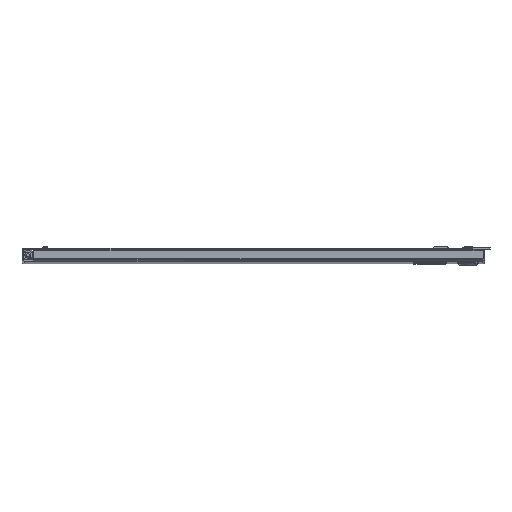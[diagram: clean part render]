
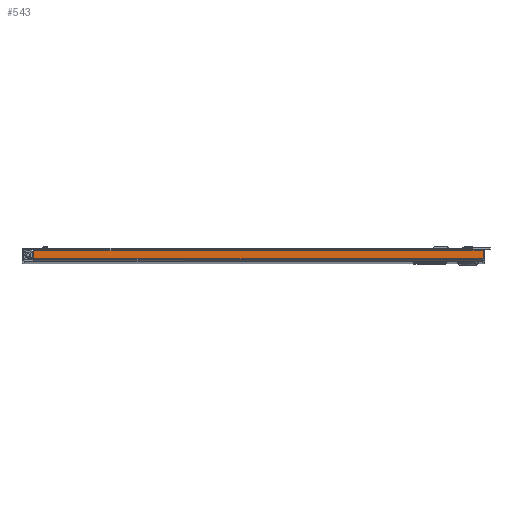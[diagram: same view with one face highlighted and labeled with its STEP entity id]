
A CAD part, top view. The second image highlights one B-rep face of the part: STEP entity #543.
In plain terms, the highlighted planar face has unit normal (0, 0, 1).
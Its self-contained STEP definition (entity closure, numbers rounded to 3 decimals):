
#543 = ADVANCED_FACE( '', ( #1204 ), #1205, .T. );
#1204 = FACE_OUTER_BOUND( '', #2064, .T. );
#1205 = PLANE( '', #2065 );
#2064 = EDGE_LOOP( '', ( #3395, #3396, #3397, #3398, #3399, #3400, #3401 ) );
#2065 = AXIS2_PLACEMENT_3D( '', #3402, #3403, #3404 );
#3395 = ORIENTED_EDGE( '', *, *, #5536, .T. );
#3396 = ORIENTED_EDGE( '', *, *, #5537, .T. );
#3397 = ORIENTED_EDGE( '', *, *, #5330, .F. );
#3398 = ORIENTED_EDGE( '', *, *, #5486, .F. );
#3399 = ORIENTED_EDGE( '', *, *, #5538, .F. );
#3400 = ORIENTED_EDGE( '', *, *, #5539, .T. );
#3401 = ORIENTED_EDGE( '', *, *, #5540, .T. );
#3402 = CARTESIAN_POINT( '', ( -233.604, 1.181, 885.825 ) );
#3403 = DIRECTION( '', ( 0., 0., 1. ) );
#3404 = DIRECTION( '', ( 0., -1., 0. ) );
#5330 = EDGE_CURVE( '', #6212, #6214, #6215, .T. );
#5486 = EDGE_CURVE( '', #6493, #6212, #6495, .T. );
#5536 = EDGE_CURVE( '', #6578, #6579, #6580, .T. );
#5537 = EDGE_CURVE( '', #6579, #6214, #6581, .T. );
#5538 = EDGE_CURVE( '', #6582, #6493, #6583, .T. );
#5539 = EDGE_CURVE( '', #6582, #6584, #6585, .T. );
#5540 = EDGE_CURVE( '', #6584, #6578, #6586, .T. );
#6212 = VERTEX_POINT( '', #7496 );
#6214 = VERTEX_POINT( '', #7499 );
#6215 = LINE( '', #7500, #7501 );
#6493 = VERTEX_POINT( '', #7905 );
#6495 = LINE( '', #7908, #7909 );
#6578 = VERTEX_POINT( '', #8040 );
#6579 = VERTEX_POINT( '', #8041 );
#6580 = LINE( '', #8042, #8043 );
#6581 = LINE( '', #8044, #8045 );
#6582 = VERTEX_POINT( '', #8046 );
#6583 = LINE( '', #8047, #8048 );
#6584 = VERTEX_POINT( '', #8049 );
#6585 = LINE( '', #8050, #8051 );
#6586 = LINE( '', #8052, #8053 );
#7496 = CARTESIAN_POINT( '', ( 232.158, 11.303, 885.825 ) );
#7499 = CARTESIAN_POINT( '', ( 232.158, 12.04, 885.825 ) );
#7500 = CARTESIAN_POINT( '', ( 232.158, 11.303, 885.825 ) );
#7501 = VECTOR( '', #9565, 1000. );
#7905 = CARTESIAN_POINT( '', ( 232.156, 11.303, 885.825 ) );
#7908 = CARTESIAN_POINT( '', ( 232.156, 11.303, 885.825 ) );
#7909 = VECTOR( '', #9738, 1000. );
#8040 = CARTESIAN_POINT( '', ( 243.256, 2.184, 885.825 ) );
#8041 = CARTESIAN_POINT( '', ( 243.256, 12.04, 885.825 ) );
#8042 = CARTESIAN_POINT( '', ( 243.256, 1.181, 885.825 ) );
#8043 = VECTOR( '', #9790, 1000. );
#8044 = CARTESIAN_POINT( '', ( 244.729, 12.04, 885.825 ) );
#8045 = VECTOR( '', #9791, 1000. );
#8046 = CARTESIAN_POINT( '', ( -233.604, 11.303, 885.825 ) );
#8047 = CARTESIAN_POINT( '', ( 232.156, 11.303, 885.825 ) );
#8048 = VECTOR( '', #9792, 1000. );
#8049 = CARTESIAN_POINT( '', ( -233.604, 2.184, 885.825 ) );
#8050 = CARTESIAN_POINT( '', ( -233.604, 1.181, 885.825 ) );
#8051 = VECTOR( '', #9793, 1000. );
#8052 = CARTESIAN_POINT( '', ( -233.604, 2.184, 885.825 ) );
#8053 = VECTOR( '', #9794, 1000. );
#9565 = DIRECTION( '', ( 0., 1., 0. ) );
#9738 = DIRECTION( '', ( 1., 0., 0. ) );
#9790 = DIRECTION( '', ( 0., 1., 0. ) );
#9791 = DIRECTION( '', ( -1., 0., 0. ) );
#9792 = DIRECTION( '', ( 1., 0., 0. ) );
#9793 = DIRECTION( '', ( 0., -1., 0. ) );
#9794 = DIRECTION( '', ( 1., 0., 0. ) );
